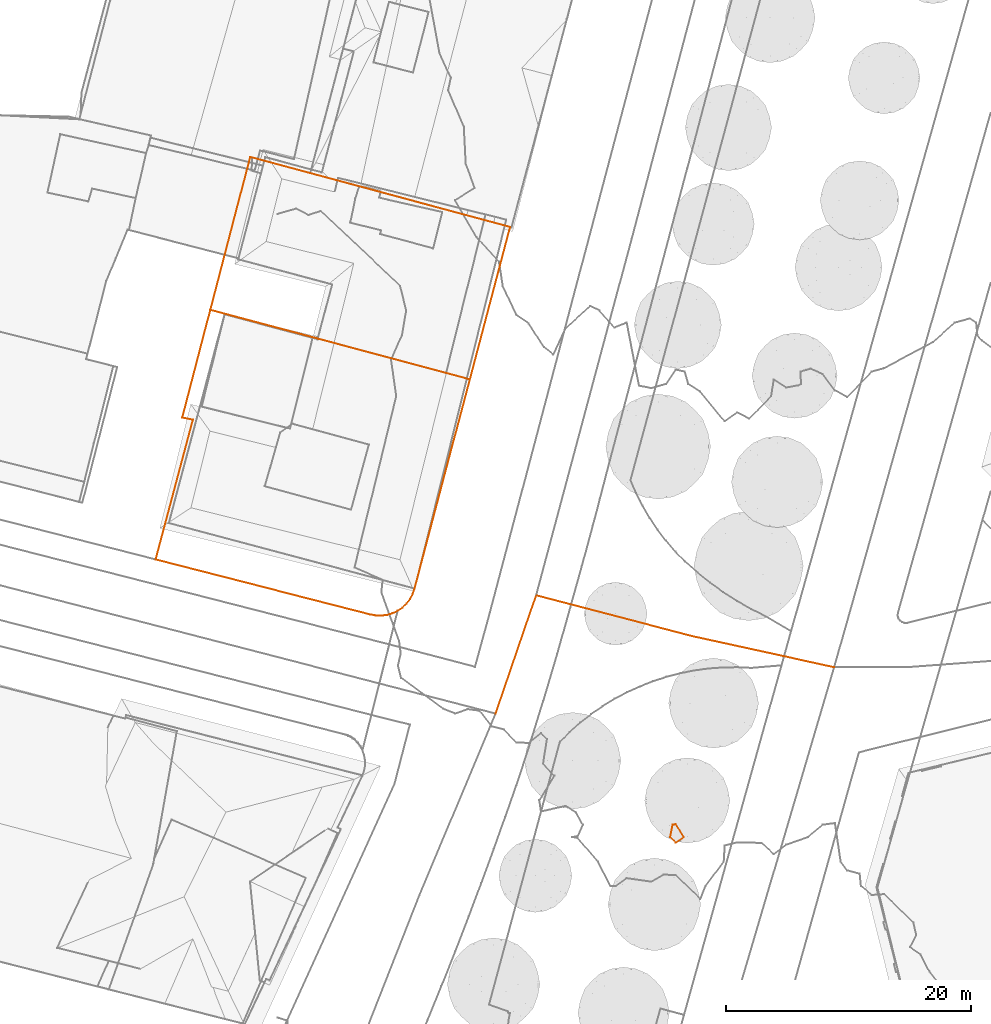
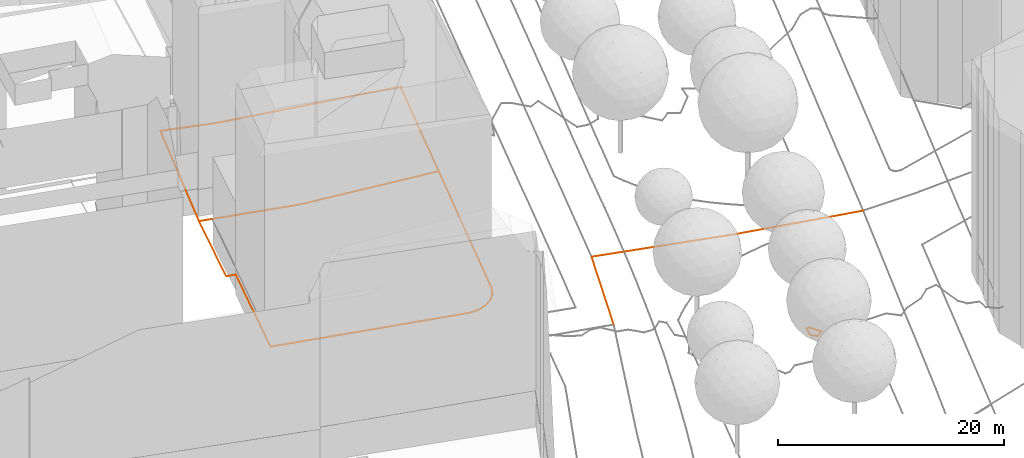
# Not in any storey, part 105 of 494: 5 proxies.
"""IFC2X3 model written with IfcOpenShell, lengths in metres."""

from ifc_helpers import new_model, entity, si_unit, frame, origin_with_axes, place, context, subcontext, project, element, save


model = new_model("IFC2X3")

# Units and contexts
model_context = context("Model", 3, precision=1e-05, world=origin_with_axes())
body_context = subcontext(model_context, "Body", "Model", "MODEL_VIEW")
ifc_project = project(units=[si_unit("AREAUNIT", "SQUARE_METRE"), si_unit("LENGTHUNIT", "METRE")], contexts=[model_context])

# Proxies
proxy_1_placement = place(None, frame((20.2697320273, 360.9057321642, 539.316), z_axis=(0.0, 0.0, 1.0), x_axis=(1.0, 0.0, 0.0)))
element("IfcBuildingElementProxy", 1, at=proxy_1_placement, Name="Road 32", ObjectType="NOTDEFINED", context=body_context, shape_type="GeometricCurveSet", body=[
    entity("IfcGeometricCurveSet", [entity("IfcPolyline", [entity("IfcCartesianPoint", [0.0, 0.0, 0.0]), entity("IfcCartesianPoint", [12.7529999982, -3.3339998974, -0.005]), entity("IfcCartesianPoint", [24.3409999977, -5.8739998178, 0.01])])]),
])
proxy_2_placement = place(None, frame((16.961732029, 351.2477324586, 539.005), z_axis=(0.0, 0.0, 1.0), x_axis=(1.0, 0.0, 0.0)))
element("IfcBuildingElementProxy", 2, at=proxy_2_placement, Name="Road 90", ObjectType="NOTDEFINED", context=body_context, shape_type="GeometricCurveSet", body=[
    entity("IfcGeometricCurveSet", [entity("IfcPolyline", [entity("IfcCartesianPoint", [3.3079999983, 9.6579997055, 0.311]), entity("IfcCartesianPoint", [0.0, 0.0, 0.0])])]),
])
proxy_3_placement = place(None, frame((-6.3292679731, 384.2157160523, 538.3323233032), z_axis=(0.0, 0.0, 1.0), x_axis=(1.0, 0.0, 0.0)))
element("IfcBuildingElementProxy", 3, at=proxy_3_placement, Name="Cadastre 112", ObjectType="NOTDEFINED", context=body_context, shape_type="GeometricCurveSet", body=[
    entity("IfcGeometricCurveSet", [entity("IfcPolyline", [entity("IfcCartesianPoint", [0.0, 0.0, 0.0]), entity("IfcCartesianPoint", [3.2589999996, 12.483, 1.0344996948]), entity("IfcCartesianPoint", [8.1489999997, 11.1630000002, 0.9559156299]), entity("IfcCartesianPoint", [24.48, 6.7640000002, 1.8468660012]), entity("IfcCartesianPoint", [24.3999999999, 6.4640000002, 1.8401777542]), entity("IfcCartesianPoint", [21.1899999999, -5.6779999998, 1.4122613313]), entity("IfcCartesianPoint", [8.8279999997, -2.3659999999, 0.122467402]), entity("IfcCartesianPoint", [0.0, 0.0, 0.0])])]),
])
proxy_4_placement = place(None, frame((-10.7972679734, 363.8317160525, 538.7121578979), z_axis=(0.0, 0.0, 1.0), x_axis=(1.0, 0.0, 0.0)))
element("IfcBuildingElementProxy", 4, at=proxy_4_placement, Name="Cadastre 113", ObjectType="NOTDEFINED", context=body_context, shape_type="GeometricCurveSet", body=[
    entity("IfcGeometricCurveSet", [entity("IfcPolyline", [entity("IfcCartesianPoint", [0.0, 0.0, 0.0]), entity("IfcCartesianPoint", [3.0490000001, 11.412, -0.1977639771]), entity("IfcCartesianPoint", [2.179, 11.5919999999, -0.2009500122]), entity("IfcCartesianPoint", [4.4680000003, 20.3839999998, -0.3798345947]), entity("IfcCartesianPoint", [13.2960000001, 18.0179999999, -0.2573671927]), entity("IfcCartesianPoint", [25.6580000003, 14.706, 1.0324267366]), entity("IfcCartesianPoint", [21.142, -2.3770000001, 0.4609661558]), entity("IfcCartesianPoint", [20.9880000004, -2.8160000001, 0.4733119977]), entity("IfcCartesianPoint", [20.7680000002, -3.226, 0.4646997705]), entity("IfcCartesianPoint", [20.4870000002, -3.5970000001, 0.415407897]), entity("IfcCartesianPoint", [20.1529999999, -3.9200000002, 0.3771851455]), entity("IfcCartesianPoint", [19.7720000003, -4.1880000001, 0.3501695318]), entity("IfcCartesianPoint", [19.352, -4.3870000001, 0.3288344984]), entity("IfcCartesianPoint", [18.906, -4.5190000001, 0.3039429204]), entity("IfcCartesianPoint", [18.4450000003, -4.581, 0.2634219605]), entity("IfcCartesianPoint", [17.98, -4.5700000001, 0.2242422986]), entity("IfcCartesianPoint", [17.5220000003, -4.4880000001, 0.2036510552]), entity("IfcCartesianPoint", [0.0, 0.0, 0.0])])]),
])
proxy_5_placement = place(None, frame((31.2116029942, 341.1707160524, 539.0), z_axis=(0.0, 0.0, 1.0), x_axis=(1.0, 0.0, 0.0)))
element("IfcBuildingElementProxy", 5, at=proxy_5_placement, Name="Contour Line 539.0 m", ObjectType="NOTDEFINED", context=body_context, shape_type="GeometricCurveSet", body=[
    entity("IfcGeometricCurveSet", [entity("IfcPolyline", [entity("IfcCartesianPoint", [0.4661290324, -0.4594594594, 0.0]), entity("IfcCartesianPoint", [1.1199751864, 0.0, 0.0]), entity("IfcCartesianPoint", [0.4661290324, 1.0674723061, 0.0]), entity("IfcCartesianPoint", [0.20643911, 1.0, 0.0]), entity("IfcCartesianPoint", [0.0, 0.0, 0.0]), entity("IfcCartesianPoint", [0.4661290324, -0.4594594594, 0.0])])]),
])

save(model, "model.ifc")
